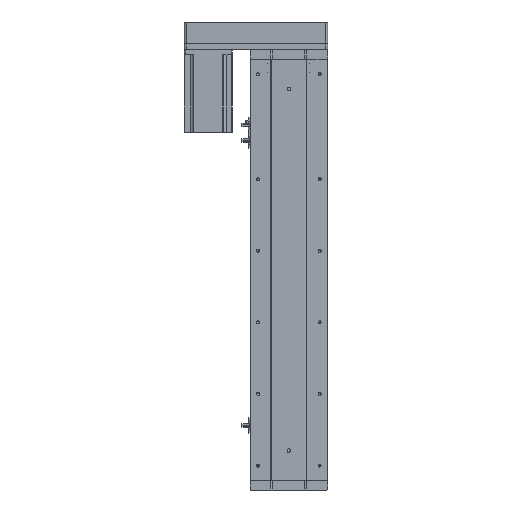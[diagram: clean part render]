
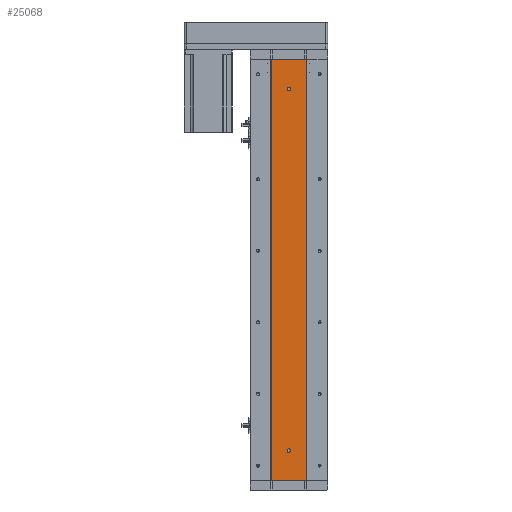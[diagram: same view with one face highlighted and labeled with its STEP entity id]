
A CAD part, left-side view. The second image highlights one B-rep face of the part: STEP entity #25068.
In plain terms, the highlighted planar face has unit normal (-1, 0, 0).
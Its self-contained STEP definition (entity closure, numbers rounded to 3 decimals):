
#152 = VERTEX_POINT ( 'NONE', #42822 ) ;
#348 = CARTESIAN_POINT ( 'NONE',  ( -24.994, 0., 656. ) ) ;
#849 = DIRECTION ( 'NONE',  ( 0., 0., -1. ) ) ;
#1289 = DIRECTION ( 'NONE',  ( -1., 0., 0. ) ) ;
#1489 = CIRCLE ( 'NONE', #23227, 3. ) ;
#1881 = VERTEX_POINT ( 'NONE', #31051 ) ;
#2132 = CARTESIAN_POINT ( 'NONE',  ( -24.994, 0., 659. ) ) ;
#3387 = VERTEX_POINT ( 'NONE', #9226 ) ;
#3765 = ORIENTED_EDGE ( 'NONE', *, *, #11079, .F. ) ;
#3941 = DIRECTION ( 'NONE',  ( 0., 0., 1. ) ) ;
#5125 = EDGE_CURVE ( 'NONE', #152, #37789, #23044, .T. ) ;
#6022 = DIRECTION ( 'NONE',  ( -1., 0., 0. ) ) ;
#6742 = VERTEX_POINT ( 'NONE', #8440 ) ;
#8440 = CARTESIAN_POINT ( 'NONE',  ( -24.994, -29.785, 706. ) ) ;
#8442 = CARTESIAN_POINT ( 'NONE',  ( -24.994, 29.785, 706. ) ) ;
#8528 = LINE ( 'NONE', #14255, #43866 ) ;
#9226 = CARTESIAN_POINT ( 'NONE',  ( -24.994, 0., 53. ) ) ;
#9542 = EDGE_LOOP ( 'NONE', ( #33119, #41007 ) ) ;
#10540 = CARTESIAN_POINT ( 'NONE',  ( -24.994, 29.785, 0. ) ) ;
#11079 = EDGE_CURVE ( 'NONE', #6742, #1881, #16055, .T. ) ;
#11507 = CARTESIAN_POINT ( 'NONE',  ( -24.994, -29.785, 706. ) ) ;
#13380 = EDGE_CURVE ( 'NONE', #3387, #39761, #30220, .T. ) ;
#13807 = CARTESIAN_POINT ( 'NONE',  ( -24.994, 29.785, 706. ) ) ;
#14255 = CARTESIAN_POINT ( 'NONE',  ( -24.994, 29.785, 0. ) ) ;
#14378 = LINE ( 'NONE', #18614, #33080 ) ;
#16055 = LINE ( 'NONE', #11507, #26556 ) ;
#16262 = EDGE_LOOP ( 'NONE', ( #28851, #3765, #29230, #24193 ) ) ;
#16941 = ORIENTED_EDGE ( 'NONE', *, *, #39628, .F. ) ;
#17377 = DIRECTION ( 'NONE',  ( 0., 0., -1. ) ) ;
#17807 = DIRECTION ( 'NONE',  ( 0., -1., 0. ) ) ;
#18614 = CARTESIAN_POINT ( 'NONE',  ( -24.994, 29.785, 706. ) ) ;
#18872 = AXIS2_PLACEMENT_3D ( 'NONE', #13807, #38515, #17377 ) ;
#19465 = EDGE_CURVE ( 'NONE', #29267, #28377, #14378, .T. ) ;
#19623 = CARTESIAN_POINT ( 'NONE',  ( -24.994, 0., 50. ) ) ;
#20128 = FACE_BOUND ( 'NONE', #25578, .T. ) ;
#22420 = CARTESIAN_POINT ( 'NONE',  ( -24.994, 0., 656. ) ) ;
#22493 = AXIS2_PLACEMENT_3D ( 'NONE', #22420, #1289, #25979 ) ;
#23044 = CIRCLE ( 'NONE', #41209, 3. ) ;
#23144 = DIRECTION ( 'NONE',  ( 0., 0., 1. ) ) ;
#23227 = AXIS2_PLACEMENT_3D ( 'NONE', #27118, #6022, #30624 ) ;
#24193 = ORIENTED_EDGE ( 'NONE', *, *, #19465, .T. ) ;
#25016 = DIRECTION ( 'NONE',  ( -1., 0., 0. ) ) ;
#25068 = ADVANCED_FACE ( 'NONE', ( #38936, #20128, #29464 ), #34804, .F. ) ;
#25578 = EDGE_LOOP ( 'NONE', ( #33657, #16941 ) ) ;
#25979 = DIRECTION ( 'NONE',  ( 0., 0., 1. ) ) ;
#26006 = DIRECTION ( 'NONE',  ( 0., -1., 0. ) ) ;
#26556 = VECTOR ( 'NONE', #849, 1000. ) ;
#27118 = CARTESIAN_POINT ( 'NONE',  ( -24.994, 0., 50. ) ) ;
#27480 = AXIS2_PLACEMENT_3D ( 'NONE', #19623, #44339, #23144 ) ;
#28377 = VERTEX_POINT ( 'NONE', #10540 ) ;
#28851 = ORIENTED_EDGE ( 'NONE', *, *, #35015, .T. ) ;
#29230 = ORIENTED_EDGE ( 'NONE', *, *, #32877, .F. ) ;
#29267 = VERTEX_POINT ( 'NONE', #37128 ) ;
#29464 = FACE_OUTER_BOUND ( 'NONE', #16262, .T. ) ;
#30220 = CIRCLE ( 'NONE', #27480, 3. ) ;
#30560 = LINE ( 'NONE', #8442, #39999 ) ;
#30624 = DIRECTION ( 'NONE',  ( 0., 0., 1. ) ) ;
#31051 = CARTESIAN_POINT ( 'NONE',  ( -24.994, -29.785, 0. ) ) ;
#31398 = CARTESIAN_POINT ( 'NONE',  ( -24.994, 0., 47. ) ) ;
#32060 = CIRCLE ( 'NONE', #22493, 3. ) ;
#32291 = DIRECTION ( 'NONE',  ( 0., 0., -1. ) ) ;
#32877 = EDGE_CURVE ( 'NONE', #29267, #6742, #30560, .T. ) ;
#33080 = VECTOR ( 'NONE', #32291, 1000. ) ;
#33119 = ORIENTED_EDGE ( 'NONE', *, *, #36109, .F. ) ;
#33657 = ORIENTED_EDGE ( 'NONE', *, *, #13380, .F. ) ;
#34804 = PLANE ( 'NONE',  #18872 ) ;
#35015 = EDGE_CURVE ( 'NONE', #28377, #1881, #8528, .T. ) ;
#36109 = EDGE_CURVE ( 'NONE', #37789, #152, #32060, .T. ) ;
#37128 = CARTESIAN_POINT ( 'NONE',  ( -24.994, 29.785, 706. ) ) ;
#37789 = VERTEX_POINT ( 'NONE', #2132 ) ;
#38515 = DIRECTION ( 'NONE',  ( 1., 0., 0. ) ) ;
#38936 = FACE_BOUND ( 'NONE', #9542, .T. ) ;
#39628 = EDGE_CURVE ( 'NONE', #39761, #3387, #1489, .T. ) ;
#39761 = VERTEX_POINT ( 'NONE', #31398 ) ;
#39999 = VECTOR ( 'NONE', #26006, 1000. ) ;
#41007 = ORIENTED_EDGE ( 'NONE', *, *, #5125, .F. ) ;
#41209 = AXIS2_PLACEMENT_3D ( 'NONE', #348, #25016, #3941 ) ;
#42822 = CARTESIAN_POINT ( 'NONE',  ( -24.994, 0., 653. ) ) ;
#43866 = VECTOR ( 'NONE', #17807, 1000. ) ;
#44339 = DIRECTION ( 'NONE',  ( -1., 0., 0. ) ) ;
